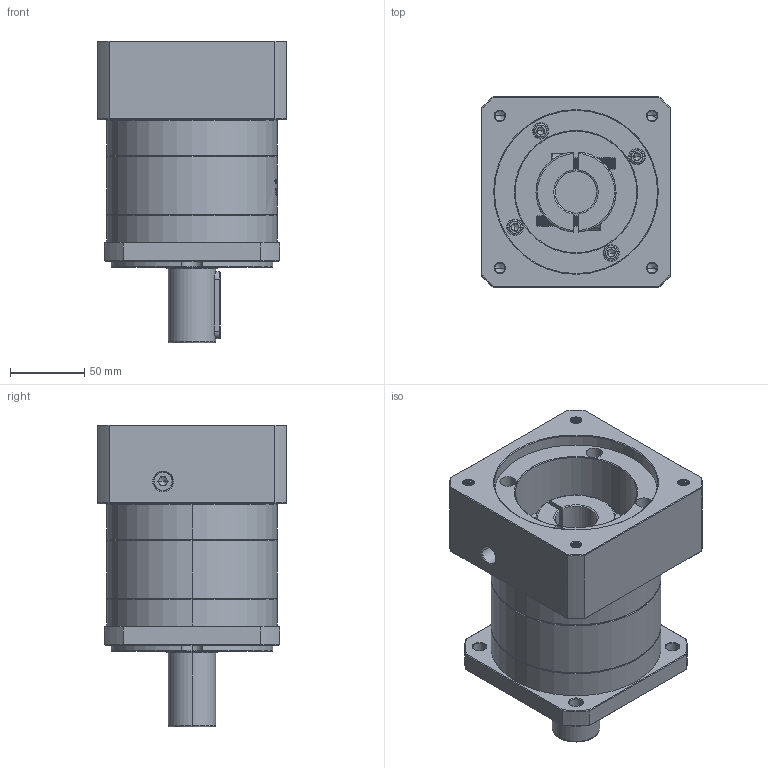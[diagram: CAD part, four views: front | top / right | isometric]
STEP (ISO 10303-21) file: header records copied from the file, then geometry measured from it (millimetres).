
FILE_DESCRIPTION (( 'STEP AP214' ), '1' );
FILE_NAME ('ZF120A-D32-L1-28-110-145-M8.step', '2023-03-07T09:33:14', ( '' ), ( '' ), 'SwSTEP 2.0', 'SolidWorks 2016', '' );
FILE_SCHEMA (( 'AUTOMOTIVE_DESIGN' ));
Length unit declared in the file: millimetre
Products named in the file (1): ZF120A-D32-L1-28-110-145-M8
Bounding box: 128 x 128 x 203.5 mm (x, y, z)
Volume: 1672571.3 mm3; surface area: 181007.5 mm2
Topology: 6 solids, 6 shells, 1939 faces, 5063 edges, 3221 vertices
Faces by surface type: plane 856, cylinder 420, cone 322, bspline 321, torus 20
Entity records: 106552 total; most frequent: CARTESIAN_POINT 41395, ORIENTED_EDGE 10066, DIRECTION 7797, EDGE_CURVE 5033, VERTEX_POINT 3221, LINE 2739, VECTOR 2739, AXIS2_PLACEMENT_3D 2529
